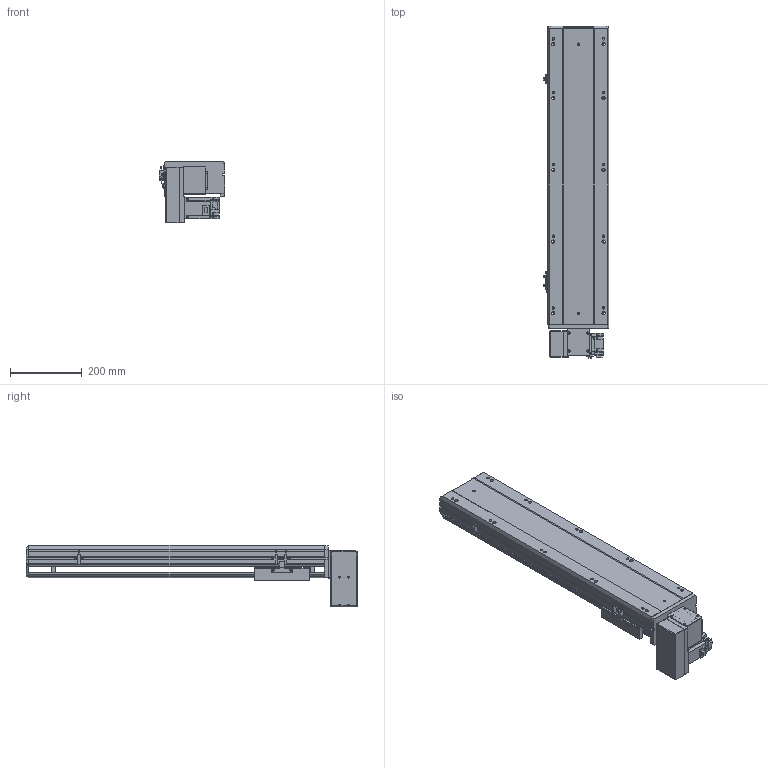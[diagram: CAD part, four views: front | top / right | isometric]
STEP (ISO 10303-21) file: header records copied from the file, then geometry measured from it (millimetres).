
FILE_DESCRIPTION (( 'STEP AP203' ), '1' );
FILE_NAME ('BTB17-L40-550-RU-M40-C4.STEP', '2022-07-20T09:01:20', ( 'CXY' ), ( 'BT' ), 'SwSTEP 2.0', 'SolidWorks 2016', '' );
FILE_SCHEMA (( 'CONFIG_CONTROL_DESIGN' ));
Length unit declared in the file: millimetre
Products named in the file (11): BTB17-L-04; BTB17-L-06; M40; BTB17-L-菁釱_XD; FS-08-T40; BTB17-L-23; BTB17-L-24; BTB17-L-HZ; BTB17-L-01; FS-07-T40(1); BTB17-L40-550-RU-M40-C4
Assembly tree (13 placements, depth 2):
  BTB17-L40-550-RU-M40-C4
    BTB17-L-菁釱_XD
    BTB17-L-01
    BTB17-L-04  x3
    BTB17-L-06
    BTB17-L-23  x2
    BTB17-L-24
    BTB17-L-HZ
    FS-07-T40(1)
    FS-08-T40
    M40
Bounding box: 183.7 x 925.3 x 171.5 mm (x, y, z)
Volume: 8082051 mm3; surface area: 1175198 mm2
Topology: 22 solids, 22 shells, 1579 faces, 4163 edges, 2644 vertices
Faces by surface type: plane 903, cylinder 500, cone 144, torus 16, bspline 16
Entity records: 40966 total; most frequent: CARTESIAN_POINT 8086, DIRECTION 6653, ORIENTED_EDGE 6494, EDGE_CURVE 3247, AXIS2_PLACEMENT_3D 2233, VECTOR 2187, LINE 2187, VERTEX_POINT 2112
